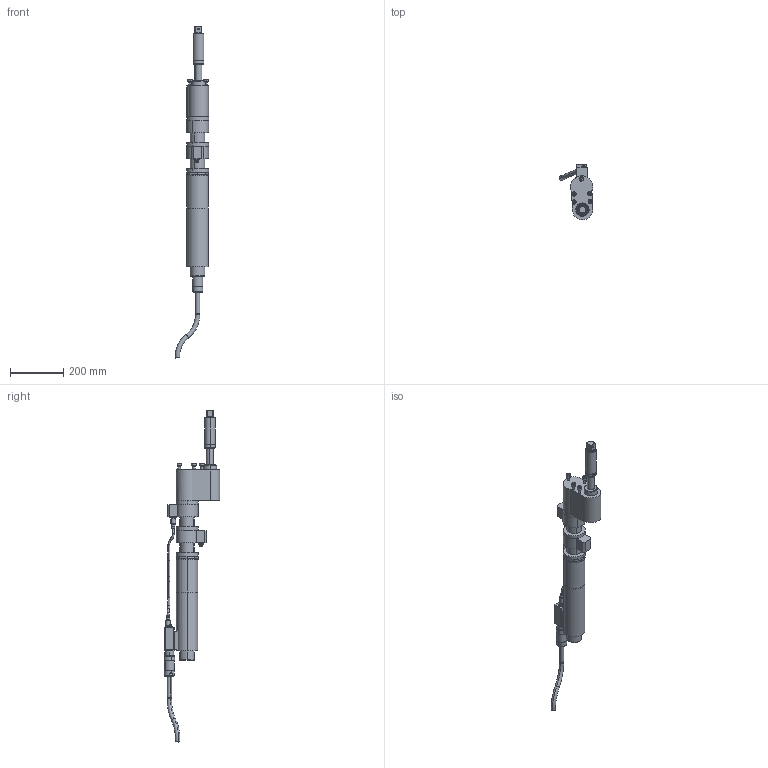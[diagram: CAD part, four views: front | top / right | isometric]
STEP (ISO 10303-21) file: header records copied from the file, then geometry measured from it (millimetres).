
FILE_DESCRIPTION(('CATIA V5 STEP'),'2;1');
FILE_NAME('O:\3D-Schrauber\stp\7920582_ECR334_DWR450_DR450_AO3360_AllCATPart.stp','2010-05-05T11:14:43+00:00',('none'),('none'),'CATIA Version 5 Release 19 SP 3 (IN-10)','CATIA V5 STEP AP214','none');
FILE_SCHEMA(('AUTOMOTIVE_DESIGN { 1 0 10303 214 1 1 1 1 }'));
Length unit declared in the file: millimetre
Products named in the file (1): 7920582_ECR334_DWR450_DR450_AO3360_AllCATPart
Bounding box: 125.3 x 209.91 x 1245.16 mm (x, y, z)
Volume: 4840015.4 mm3; surface area: 435101 mm2
Topology: 29 solids, 29 shells, 718 faces, 1659 edges, 1056 vertices
Faces by surface type: cylinder 287, plane 279, cone 82, torus 66, sphere 4
Entity records: 21262 total; most frequent: CARTESIAN_POINT 5805, ORIENTED_EDGE 3306, DIRECTION 2608, EDGE_CURVE 1653, AXIS2_PLACEMENT_3D 1304, VERTEX_POINT 1056, EDGE_LOOP 785, ADVANCED_FACE 718
